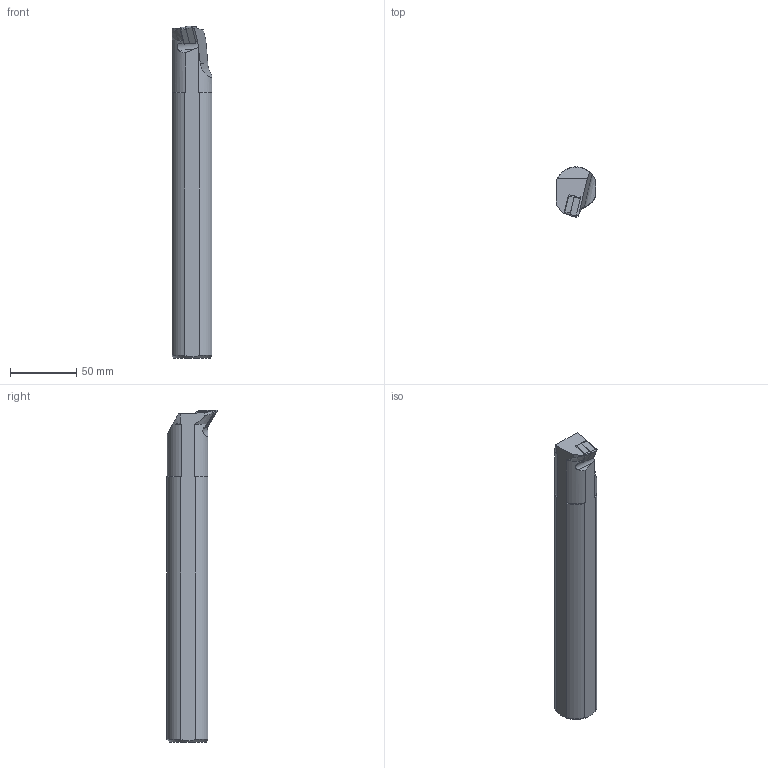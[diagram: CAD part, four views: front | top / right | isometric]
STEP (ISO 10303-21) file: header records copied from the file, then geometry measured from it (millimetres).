
FILE_DESCRIPTION(/* description */ (''),/* implementation_level */ '2;1');
FILE_NAME(/* name */ 'A32S-MDUNR-15-3-HAAS_210825.stp',/* time_stamp */ '2021-09-30T17:04:20+09:00',/* author */ (''),/* organization */ (''),/* preprocessor_version */ 'ST-DEVELOPER v15',/* originating_system */ 'SIEMENS PLM Software NX 8.5',/* authorisation */ '');
FILE_SCHEMA (('AP203_CONFIGURATION_CONTROLLED_3D_DESIGN_OF_MECHANICAL_PARTS_AND_ASSEMBLIES_MIM_LF { 1 0 10303 403 2 1 2}'));
Length unit declared in the file: millimetre
Products named in the file (1): userF2984F2A8mb8
Bounding box: 30 x 38 x 250 mm (x, y, z)
Volume: 188750.7 mm3; surface area: 27146.2 mm2
Topology: 3 solids, 3 shells, 60 faces, 146 edges, 93 vertices
Faces by surface type: plane 25, cylinder 20, cone 12, bspline 1, extrusion 1, torus 1
Full cylindrical faces by diameter (mm): 5.16 x1, 7.34 x1, 8 x1
Entity records: 1922 total; most frequent: CARTESIAN_POINT 452, DIRECTION 285, ORIENTED_EDGE 276, EDGE_CURVE 138, AXIS2_PLACEMENT_3D 109, VERTEX_POINT 92, EDGE_LOOP 72, VECTOR 67
